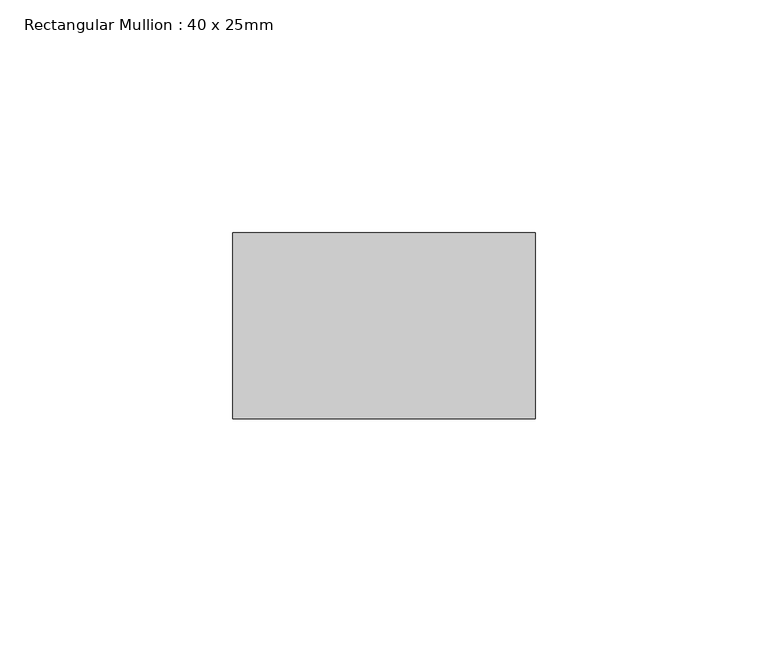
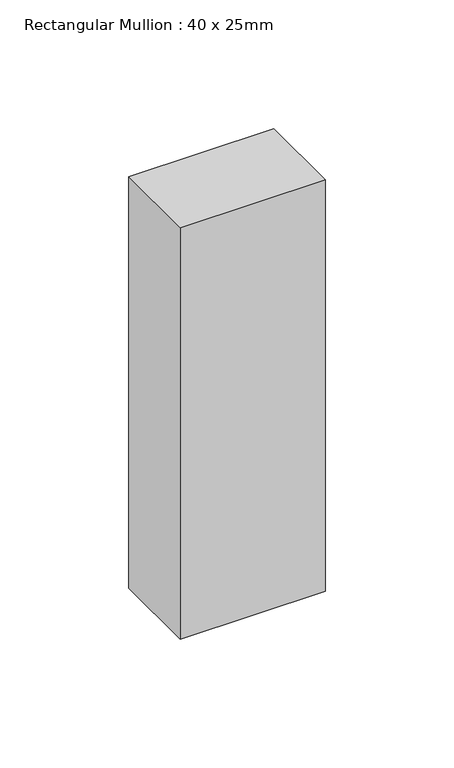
"""IFC4 building model written with IfcOpenShell, lengths in millimetres: member geometry, Rectangular Mullion : 40 x 25mm."""

import ifcopenshell
import ifcopenshell.guid

model = None  # the IFC model being written
_history = None  # IfcOwnerHistory: only IFC2X3 demands one
_inside = {}  # id of a spatial element -> (the spatial element, [elements in it])
_under = {}  # id of a project, library or spatial element -> (it, [spatial elements below it])
_declared = {}  # id of a project -> (the project, [libraries it declares])
_typed = {}  # id of a type object -> (the type object, [elements of that type])
_made_of = {}  # id of a material, layer set ... -> (it, [elements and type objects made of it])


def new_model(schema):
    """Start an empty IFC model of exactly this schema.

    Asked for "IFC4X3", IfcOpenShell would pick the latest addendum, in which some entities
    have other attributes; the version numbers below select the first issue.
    IFC2X3 requires an IfcOwnerHistory on every rooted entity: one is made here for all.
    """
    global model, _history
    if schema == "IFC4X3":
        model = ifcopenshell.file(schema_version=(4, 3, 0, 0))
    else:
        model = ifcopenshell.file(schema=schema)
    _inside.clear()
    _under.clear()
    _declared.clear()
    _typed.clear()
    _made_of.clear()
    _history = None
    if model.schema == "IFC2X3":
        org = make("IfcOrganization", Name="unknown")
        user = make(
            "IfcPersonAndOrganization",
            ThePerson=make("IfcPerson", FamilyName="unknown"),
            TheOrganization=org,
        )
        app = make(
            "IfcApplication",
            ApplicationDeveloper=org,
            Version="unknown",
            ApplicationFullName="unknown",
            ApplicationIdentifier="unknown",
        )
        _history = make(
            "IfcOwnerHistory",
            OwningUser=user,
            OwningApplication=app,
            ChangeAction="ADDED",
            CreationDate=0,
        )
    return model


def make(cls, **values):
    """One entity of the class cls with the attributes given. An attribute that is None is left unset."""
    return model.create_entity(
        cls, **{name: value for name, value in values.items() if value is not None}
    )


def rooted(cls, **values):
    """An entity with a GlobalId (a new one), such as an element, a storey or a relation."""
    return make(cls, GlobalId=ifcopenshell.guid.new(), OwnerHistory=_history, **values)


def si_unit(unit_type, name, prefix=None):
    """IfcSIUnit, for example si_unit("LENGTHUNIT", "METRE", prefix="MILLI")."""
    return make("IfcSIUnit", UnitType=unit_type, Prefix=prefix, Name=name)


def assignment(units):
    """IfcUnitAssignment: the units of a project."""
    return None if units is None else make("IfcUnitAssignment", Units=units)


def point(xyz):
    """IfcCartesianPoint."""
    return None if xyz is None else make("IfcCartesianPoint", Coordinates=xyz)


def direction(xyz):
    """IfcDirection."""
    return None if xyz is None else make("IfcDirection", DirectionRatios=xyz)


def frame(location, z_axis=None, x_axis=None):
    """IfcAxis2Placement3D, a coordinate frame: its origin and axes. An axis left out is left unset."""
    return make(
        "IfcAxis2Placement3D",
        Location=point(location),
        Axis=direction(z_axis),
        RefDirection=direction(x_axis),
    )


def origin():
    """The frame at (0, 0, 0) with its axes left unset."""
    return frame((0.0, 0.0, 0.0))


def place(relative_to, where):
    """IfcLocalPlacement: puts the frame where relative to a parent placement (None: the world)."""
    return make(
        "IfcLocalPlacement", PlacementRelTo=relative_to, RelativePlacement=where
    )


def context(
    kind, dimensions, precision=None, world=None, true_north=None, identifier=None
):
    """IfcGeometricRepresentationContext, for example the 3D "Model" context."""
    return make(
        "IfcGeometricRepresentationContext",
        ContextIdentifier=identifier,
        ContextType=kind,
        CoordinateSpaceDimension=dimensions,
        Precision=precision,
        WorldCoordinateSystem=world,
        TrueNorth=true_north,
    )


def project(units=None, contexts=None):
    """IfcProject with its units and contexts."""
    return rooted(
        "IfcProject",
        Name="project",
        RepresentationContexts=contexts,
        UnitsInContext=assignment(units),
    )


def spatial(cls, under=None, at=None, **own):
    """A site, building, storey or space (cls), placed at a placement, below another one or the project."""
    s = rooted(cls, ObjectPlacement=at, **own)
    if under is not None:
        _under.setdefault(under.id(), (under, []))[1].append(s)
    return s


def polyline(points):
    """IfcPolyline through the points."""
    return make("IfcPolyline", Points=[point(p) for p in points])


def outline(outer, holes=None, kind="AREA"):
    """IfcArbitraryClosedProfileDef: a profile drawn as a closed curve; with holes, ...WithVoids."""
    if holes is None:
        return make("IfcArbitraryClosedProfileDef", ProfileType=kind, OuterCurve=outer)
    return make(
        "IfcArbitraryProfileDefWithVoids",
        ProfileType=kind,
        OuterCurve=outer,
        InnerCurves=holes,
    )


def extrude(swept, where, along, depth):
    """IfcExtrudedAreaSolid: the profile swept, set in the frame where, extruded along a direction by depth."""
    return make(
        "IfcExtrudedAreaSolid",
        SweptArea=swept,
        Position=where,
        ExtrudedDirection=direction(along),
        Depth=depth,
    )


def shape(context_of_items, identifier, shape_type, items):
    """IfcShapeRepresentation: the items that make up one representation, for example the "Body"."""
    return make(
        "IfcShapeRepresentation",
        ContextOfItems=context_of_items,
        RepresentationIdentifier=identifier,
        RepresentationType=shape_type,
        Items=items,
    )


def source(mapping_origin, context_of_items, identifier, shape_type, items):
    """IfcRepresentationMap: a shape defined once, which mapped items show again and again."""
    return make(
        "IfcRepresentationMap",
        MappingOrigin=mapping_origin,
        MappedRepresentation=shape(context_of_items, identifier, shape_type, items),
    )


def transform(
    local_origin,
    x_axis=None,
    y_axis=None,
    z_axis=None,
    scale=None,
    scale2=None,
    scale3=None,
    uniform=True,
):
    """IfcCartesianTransformationOperator3D, or its non-uniform kind. x_axis, y_axis, z_axis: its Axis1, 2, 3."""
    if uniform:
        return make(
            "IfcCartesianTransformationOperator3D",
            Axis1=direction(x_axis),
            Axis2=direction(y_axis),
            LocalOrigin=point(local_origin),
            Scale=scale,
            Axis3=direction(z_axis),
        )
    return make(
        "IfcCartesianTransformationOperator3DnonUniform",
        Axis1=direction(x_axis),
        Axis2=direction(y_axis),
        LocalOrigin=point(local_origin),
        Scale=scale,
        Axis3=direction(z_axis),
        Scale2=scale2,
        Scale3=scale3,
    )


def mapped(mapping_source, mapping_target):
    """IfcMappedItem: shows the shape of a source again, moved by a transform."""
    return make(
        "IfcMappedItem", MappingSource=mapping_source, MappingTarget=mapping_target
    )


def made_of(thing, what):
    """Note that an element or type object is made of a material, layer set ...; save() writes the relation."""
    if what is not None:
        _made_of.setdefault(what.id(), (what, []))[1].append(thing)
    return thing


def element(
    cls,
    number,
    at=None,
    inside=None,
    cuts=None,
    type_object=None,
    material=None,
    context=None,
    identifier="Body",
    shape_type=None,
    held_by="IfcProductDefinitionShape",
    body=None,
    shapes=None,
    **own,
):
    """One element of the class cls, such as IfcWall. Its Tag is "e" and its number.

    at: its placement. inside: the storey or other place that contains it. cuts: it is an
    opening in that element (IfcRelVoidsElement). A single representation is given by context,
    identifier, shape_type and body (its items); several are given by shapes. held_by: the class
    of the entity that holds the representations. save() writes the other relations.
    """
    e = rooted(cls, Tag="e%d" % number, ObjectPlacement=at, **own)
    if body is not None:
        shapes = [shape(context, identifier, shape_type, body)]
    if shapes is not None:
        e.Representation = make(held_by, Representations=shapes)
    if inside is not None:
        _inside.setdefault(inside.id(), (inside, []))[1].append(e)
    if cuts is not None:
        rooted(
            "IfcRelVoidsElement", RelatingBuildingElement=cuts, RelatedOpeningElement=e
        )
    if type_object is not None:
        _typed.setdefault(type_object.id(), (type_object, []))[1].append(e)
    return made_of(e, material)


def aggregate(whole, parts):
    """IfcRelAggregates: a whole, such as a stair, and the parts it consists of."""
    return rooted("IfcRelAggregates", RelatingObject=whole, RelatedObjects=parts)


def save(model, path):
    """Write the relations noted so far, then the file.

    IfcRelAggregates (storeys below a building ...), IfcRelContainedInSpatialStructure (elements
    in a storey), IfcRelDefinesByType, IfcRelAssociatesMaterial and IfcRelDeclares: one each for
    every whole, place, type object, material and project.
    """
    for whole, parts in _under.values():
        aggregate(whole, parts)
    for where, things in _inside.values():
        rooted(
            "IfcRelContainedInSpatialStructure",
            RelatedElements=things,
            RelatingStructure=where,
        )
    for kind, things in _typed.values():
        rooted("IfcRelDefinesByType", RelatedObjects=things, RelatingType=kind)
    for what, things in _made_of.values():
        rooted("IfcRelAssociatesMaterial", RelatedObjects=things, RelatingMaterial=what)
    for by, libraries in _declared.values():
        rooted("IfcRelDeclares", RelatingContext=by, RelatedDefinitions=libraries)
    model.write(path)


def rectangular_mullion_40_x_25mm_6637a8d8(model_context):
    return source(origin(), model_context, "Body", "SweptSolid", [
        extrude(outline(polyline([(0.0, -20.0), (0.0, -60.0), (-65.0, -60.0), (-65.0, -20.0), (0.0, -20.0)])), frame((0.0, 0.0, -195.0), z_axis=(0.0, 0.0, 1.0), x_axis=(1.0, 0.0, 0.0)), (0.0, 0.0, 1.0), 195.0),
    ])


if __name__ == "__main__":
    model = new_model("IFC4")
    model_context = context("Model", 3, world=origin())
    ifc_project = project(units=[si_unit("LENGTHUNIT", "METRE", prefix="MILLI")], contexts=[model_context])
    site = spatial("IfcSite", under=ifc_project)
    building = spatial("IfcBuilding", under=site)
    placement = place(None, origin())
    rectangular_mullion_40_x_25mm_shape = rectangular_mullion_40_x_25mm_6637a8d8(model_context)
    element("IfcMember", 1, ObjectType="Rectangular Mullion : 40 x 25mm", at=placement, inside=building, context=model_context, shape_type="MappedRepresentation", body=[
        mapped(rectangular_mullion_40_x_25mm_shape, transform((0.0, 0.0, 0.0), x_axis=(1.0, 0.0, 0.0), y_axis=(0.0, 1.0, 0.0), z_axis=(0.0, 0.0, 1.0))),
    ])
    save(model, "model.ifc")
